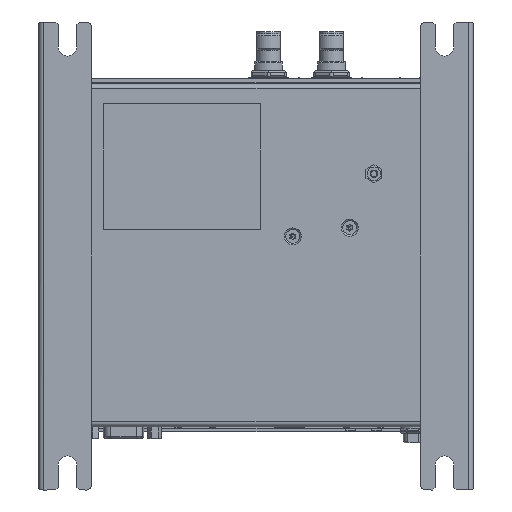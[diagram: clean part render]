
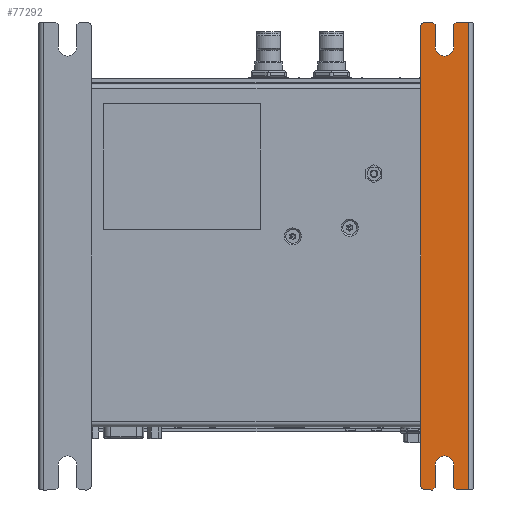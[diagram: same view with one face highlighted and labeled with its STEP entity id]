
A CAD part, front view. The second image highlights one B-rep face of the part: STEP entity #77292.
In plain terms, the highlighted planar face has unit normal (0, -1, 0).
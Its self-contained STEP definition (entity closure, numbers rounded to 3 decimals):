
#142 = VECTOR ( 'NONE', #70848, 1000. ) ;
#727 = CARTESIAN_POINT ( 'NONE',  ( 76.1, -1.45, 84.25 ) ) ;
#1439 = VERTEX_POINT ( 'NONE', #4365 ) ;
#1925 = CARTESIAN_POINT ( 'NONE',  ( 79.85, -1.45, 84.25 ) ) ;
#1974 = VERTEX_POINT ( 'NONE', #90452 ) ;
#3483 = CARTESIAN_POINT ( 'NONE',  ( 85.7, -1.45, 94.25 ) ) ;
#3895 = DIRECTION ( 'NONE',  ( 0., -1., 0. ) ) ;
#4365 = CARTESIAN_POINT ( 'NONE',  ( 85.7, -1.45, 94.25 ) ) ;
#4587 = EDGE_CURVE ( 'NONE', #36117, #60684, #44794, .T. ) ;
#4987 = ORIENTED_EDGE ( 'NONE', *, *, #86613, .T. ) ;
#5338 = VERTEX_POINT ( 'NONE', #11909 ) ;
#6289 = DIRECTION ( 'NONE',  ( -1., 0., 0. ) ) ;
#6458 = VECTOR ( 'NONE', #64044, 1000. ) ;
#6943 = CARTESIAN_POINT ( 'NONE',  ( 72.35, -1.45, 94.25 ) ) ;
#7172 = DIRECTION ( 'NONE',  ( 0., -1., 0. ) ) ;
#7935 = VERTEX_POINT ( 'NONE', #47853 ) ;
#7965 = DIRECTION ( 'NONE',  ( 1., 0., 0. ) ) ;
#7980 = EDGE_LOOP ( 'NONE', ( #86523, #24078, #48010, #38220, #12991, #36860, #36308, #47183, #83128, #14289, #88029, #4987, #31698, #41411, #74625, #91314, #35855, #63559 ) ) ;
#9512 = VECTOR ( 'NONE', #53847, 1000. ) ;
#11179 = CARTESIAN_POINT ( 'NONE',  ( 76.1, -1.45, -84.75 ) ) ;
#11909 = CARTESIAN_POINT ( 'NONE',  ( 68.5, -1.45, -94.75 ) ) ;
#11913 = CARTESIAN_POINT ( 'NONE',  ( 79.85, -1.45, 94.25 ) ) ;
#12082 = DIRECTION ( 'NONE',  ( 0.707, 0., 0.707 ) ) ;
#12673 = VERTEX_POINT ( 'NONE', #28523 ) ;
#12991 = ORIENTED_EDGE ( 'NONE', *, *, #35181, .T. ) ;
#13278 = EDGE_CURVE ( 'NONE', #23181, #7935, #70703, .T. ) ;
#13529 = CARTESIAN_POINT ( 'NONE',  ( 86.5, -1.45, 94.25 ) ) ;
#13533 = VECTOR ( 'NONE', #52501, 1000. ) ;
#14191 = DIRECTION ( 'NONE',  ( 0., 0., 1. ) ) ;
#14289 = ORIENTED_EDGE ( 'NONE', *, *, #63552, .T. ) ;
#15214 = DIRECTION ( 'NONE',  ( 0., 0., -1. ) ) ;
#15722 = VECTOR ( 'NONE', #14191, 1000. ) ;
#18451 = DIRECTION ( 'NONE',  ( 1., 0., 0. ) ) ;
#19052 = CARTESIAN_POINT ( 'NONE',  ( 79.85, -1.45, -93.75 ) ) ;
#22281 = CARTESIAN_POINT ( 'NONE',  ( 68.5, -1.45, 92.25 ) ) ;
#23181 = VERTEX_POINT ( 'NONE', #26968 ) ;
#24078 = ORIENTED_EDGE ( 'NONE', *, *, #4587, .T. ) ;
#24234 = VERTEX_POINT ( 'NONE', #34917 ) ;
#24570 = CARTESIAN_POINT ( 'NONE',  ( 86.5, -1.45, -94.75 ) ) ;
#26104 = AXIS2_PLACEMENT_3D ( 'NONE', #11179, #61537, #18451 ) ;
#26681 = CARTESIAN_POINT ( 'NONE',  ( 72.35, -1.45, 94.25 ) ) ;
#26968 = CARTESIAN_POINT ( 'NONE',  ( 72.35, -1.45, -84.75 ) ) ;
#27181 = VECTOR ( 'NONE', #39051, 1000. ) ;
#27763 = CARTESIAN_POINT ( 'NONE',  ( 86.5, -1.45, 94.25 ) ) ;
#28523 = CARTESIAN_POINT ( 'NONE',  ( 72.35, -1.45, 93.25 ) ) ;
#29042 = CIRCLE ( 'NONE', #56039, 2. ) ;
#29499 = DIRECTION ( 'NONE',  ( 1., 0., 0. ) ) ;
#29750 = LINE ( 'NONE', #67983, #84895 ) ;
#29769 = LINE ( 'NONE', #26681, #68059 ) ;
#30461 = VERTEX_POINT ( 'NONE', #45341 ) ;
#30942 = LINE ( 'NONE', #3483, #9512 ) ;
#31698 = ORIENTED_EDGE ( 'NONE', *, *, #66609, .T. ) ;
#32970 = CARTESIAN_POINT ( 'NONE',  ( 86.5, -1.45, -94.75 ) ) ;
#33148 = CIRCLE ( 'NONE', #87573, 3.75 ) ;
#34391 = EDGE_CURVE ( 'NONE', #44901, #5338, #29042, .T. ) ;
#34917 = CARTESIAN_POINT ( 'NONE',  ( 71.35, -1.45, 94.25 ) ) ;
#35181 = EDGE_CURVE ( 'NONE', #1439, #30461, #51469, .T. ) ;
#35408 = CARTESIAN_POINT ( 'NONE',  ( 78.925, -1.45, 86.675 ) ) ;
#35855 = ORIENTED_EDGE ( 'NONE', *, *, #87549, .T. ) ;
#36117 = VERTEX_POINT ( 'NONE', #19052 ) ;
#36308 = ORIENTED_EDGE ( 'NONE', *, *, #47139, .F. ) ;
#36684 = VECTOR ( 'NONE', #15214, 1000. ) ;
#36860 = ORIENTED_EDGE ( 'NONE', *, *, #68409, .T. ) ;
#36959 = EDGE_CURVE ( 'NONE', #12673, #74099, #29769, .T. ) ;
#38220 = ORIENTED_EDGE ( 'NONE', *, *, #47039, .F. ) ;
#38395 = CIRCLE ( 'NONE', #59327, 2. ) ;
#38831 = CARTESIAN_POINT ( 'NONE',  ( 79.85, -1.45, 93.25 ) ) ;
#39051 = DIRECTION ( 'NONE',  ( -1., 0., 0. ) ) ;
#40709 = LINE ( 'NONE', #27763, #142 ) ;
#40749 = CARTESIAN_POINT ( 'NONE',  ( 173.425, -1.45, 7.325 ) ) ;
#41411 = ORIENTED_EDGE ( 'NONE', *, *, #34391, .T. ) ;
#44462 = CARTESIAN_POINT ( 'NONE',  ( 72.35, -1.45, 84.25 ) ) ;
#44794 = LINE ( 'NONE', #49598, #6458 ) ;
#44901 = VERTEX_POINT ( 'NONE', #93116 ) ;
#45246 = EDGE_CURVE ( 'NONE', #1974, #5338, #92434, .T. ) ;
#45341 = CARTESIAN_POINT ( 'NONE',  ( 80.85, -1.45, 94.25 ) ) ;
#46356 = LINE ( 'NONE', #24570, #27181 ) ;
#47028 = CARTESIAN_POINT ( 'NONE',  ( 86.5, -1.45, 94.25 ) ) ;
#47039 = EDGE_CURVE ( 'NONE', #1439, #71309, #30942, .T. ) ;
#47139 = EDGE_CURVE ( 'NONE', #76913, #76561, #60201, .T. ) ;
#47183 = ORIENTED_EDGE ( 'NONE', *, *, #84144, .F. ) ;
#47853 = CARTESIAN_POINT ( 'NONE',  ( 79.85, -1.45, -84.75 ) ) ;
#48010 = ORIENTED_EDGE ( 'NONE', *, *, #86232, .F. ) ;
#49198 = VECTOR ( 'NONE', #6289, 1000. ) ;
#49598 = CARTESIAN_POINT ( 'NONE',  ( -10.825, -1.45, -3.075 ) ) ;
#50067 = EDGE_CURVE ( 'NONE', #24234, #55723, #40709, .T. ) ;
#50261 = VECTOR ( 'NONE', #60800, 1000. ) ;
#50326 = CARTESIAN_POINT ( 'NONE',  ( 68.5, -1.45, -92.75 ) ) ;
#51114 = DIRECTION ( 'NONE',  ( 0., -1., 0. ) ) ;
#51298 = EDGE_CURVE ( 'NONE', #1974, #52097, #83292, .T. ) ;
#51469 = LINE ( 'NONE', #13529, #49198 ) ;
#52097 = VERTEX_POINT ( 'NONE', #88991 ) ;
#52501 = DIRECTION ( 'NONE',  ( -0.707, 0., 0.707 ) ) ;
#53847 = DIRECTION ( 'NONE',  ( 0., 0., -1. ) ) ;
#54084 = DIRECTION ( 'NONE',  ( -1., 0., 0. ) ) ;
#54191 = VECTOR ( 'NONE', #54084, 1000. ) ;
#54265 = DIRECTION ( 'NONE',  ( 1., 0., 0. ) ) ;
#55723 = VERTEX_POINT ( 'NONE', #78116 ) ;
#56039 = AXIS2_PLACEMENT_3D ( 'NONE', #50326, #7172, #57540 ) ;
#57540 = DIRECTION ( 'NONE',  ( 1., 0., 0. ) ) ;
#59327 = AXIS2_PLACEMENT_3D ( 'NONE', #22281, #72598, #29499 ) ;
#60201 = LINE ( 'NONE', #11913, #77031 ) ;
#60684 = VERTEX_POINT ( 'NONE', #75525 ) ;
#60800 = DIRECTION ( 'NONE',  ( -0.707, 0., -0.707 ) ) ;
#61537 = DIRECTION ( 'NONE',  ( 0., 1., 0. ) ) ;
#63552 = EDGE_CURVE ( 'NONE', #12673, #24234, #68728, .T. ) ;
#63559 = ORIENTED_EDGE ( 'NONE', *, *, #13278, .T. ) ;
#64044 = DIRECTION ( 'NONE',  ( 0.707, 0., -0.707 ) ) ;
#65516 = CARTESIAN_POINT ( 'NONE',  ( 66.5, -1.45, 94.25 ) ) ;
#66609 = EDGE_CURVE ( 'NONE', #82541, #44901, #77184, .T. ) ;
#67796 = FACE_OUTER_BOUND ( 'NONE', #7980, .T. ) ;
#67983 = CARTESIAN_POINT ( 'NONE',  ( 79.85, -1.45, 94.25 ) ) ;
#68059 = VECTOR ( 'NONE', #91185, 1000. ) ;
#68386 = PLANE ( 'NONE',  #72257 ) ;
#68409 = EDGE_CURVE ( 'NONE', #30461, #76561, #93038, .T. ) ;
#68728 = LINE ( 'NONE', #35408, #13533 ) ;
#69501 = DIRECTION ( 'NONE',  ( 0., 0., 1. ) ) ;
#70703 = CIRCLE ( 'NONE', #26104, 3.75 ) ;
#70848 = DIRECTION ( 'NONE',  ( -1., 0., 0. ) ) ;
#71309 = VERTEX_POINT ( 'NONE', #74805 ) ;
#72257 = AXIS2_PLACEMENT_3D ( 'NONE', #47028, #3895, #54265 ) ;
#72598 = DIRECTION ( 'NONE',  ( 0., -1., 0. ) ) ;
#73307 = CARTESIAN_POINT ( 'NONE',  ( 66.5, -1.45, 92.25 ) ) ;
#74099 = VERTEX_POINT ( 'NONE', #44462 ) ;
#74625 = ORIENTED_EDGE ( 'NONE', *, *, #45246, .F. ) ;
#74805 = CARTESIAN_POINT ( 'NONE',  ( 85.7, -1.45, -94.75 ) ) ;
#74921 = CARTESIAN_POINT ( 'NONE',  ( 83.675, -1.45, 97.075 ) ) ;
#75219 = DIRECTION ( 'NONE',  ( 0., 0., -1. ) ) ;
#75525 = CARTESIAN_POINT ( 'NONE',  ( 80.85, -1.45, -94.75 ) ) ;
#76525 = VECTOR ( 'NONE', #12082, 1000. ) ;
#76561 = VERTEX_POINT ( 'NONE', #38831 ) ;
#76913 = VERTEX_POINT ( 'NONE', #1925 ) ;
#77031 = VECTOR ( 'NONE', #69501, 1000. ) ;
#77184 = LINE ( 'NONE', #65516, #36684 ) ;
#77292 = ADVANCED_FACE ( 'NONE', ( #67796 ), #68386, .T. ) ;
#78116 = CARTESIAN_POINT ( 'NONE',  ( 68.5, -1.45, 94.25 ) ) ;
#82541 = VERTEX_POINT ( 'NONE', #73307 ) ;
#83128 = ORIENTED_EDGE ( 'NONE', *, *, #36959, .F. ) ;
#83292 = LINE ( 'NONE', #40749, #76525 ) ;
#84144 = EDGE_CURVE ( 'NONE', #74099, #76913, #33148, .T. ) ;
#84895 = VECTOR ( 'NONE', #75219, 1000. ) ;
#86232 = EDGE_CURVE ( 'NONE', #71309, #60684, #46356, .T. ) ;
#86523 = ORIENTED_EDGE ( 'NONE', *, *, #91906, .T. ) ;
#86613 = EDGE_CURVE ( 'NONE', #55723, #82541, #38395, .T. ) ;
#87549 = EDGE_CURVE ( 'NONE', #52097, #23181, #90030, .T. ) ;
#87573 = AXIS2_PLACEMENT_3D ( 'NONE', #727, #51114, #7965 ) ;
#88029 = ORIENTED_EDGE ( 'NONE', *, *, #50067, .T. ) ;
#88991 = CARTESIAN_POINT ( 'NONE',  ( 72.35, -1.45, -93.75 ) ) ;
#90030 = LINE ( 'NONE', #6943, #15722 ) ;
#90452 = CARTESIAN_POINT ( 'NONE',  ( 71.35, -1.45, -94.75 ) ) ;
#91185 = DIRECTION ( 'NONE',  ( 0., 0., -1. ) ) ;
#91314 = ORIENTED_EDGE ( 'NONE', *, *, #51298, .T. ) ;
#91906 = EDGE_CURVE ( 'NONE', #7935, #36117, #29750, .T. ) ;
#92434 = LINE ( 'NONE', #32970, #54191 ) ;
#93038 = LINE ( 'NONE', #74921, #50261 ) ;
#93116 = CARTESIAN_POINT ( 'NONE',  ( 66.5, -1.45, -92.75 ) ) ;
